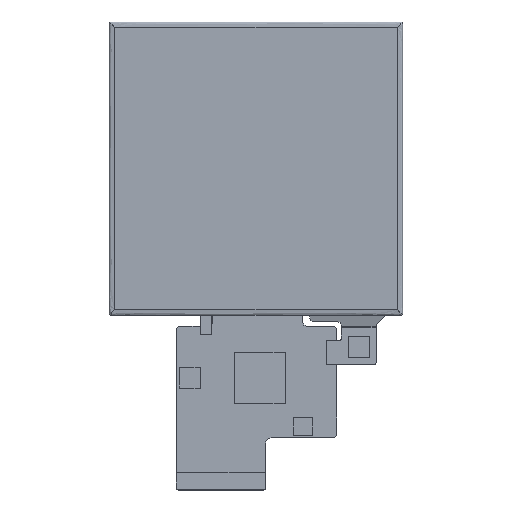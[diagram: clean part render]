
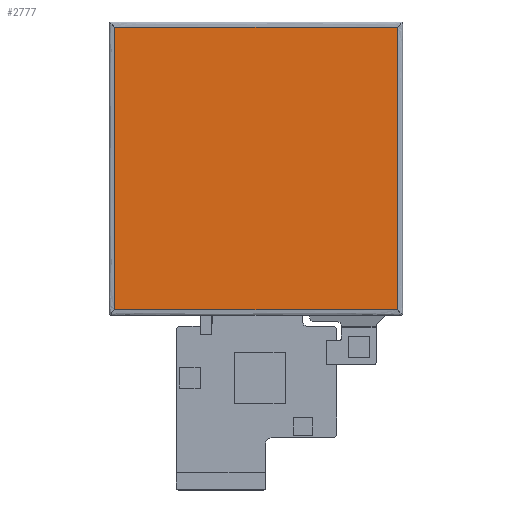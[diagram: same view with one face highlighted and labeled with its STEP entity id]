
A CAD part, top view. The second image highlights one B-rep face of the part: STEP entity #2777.
In plain terms, the highlighted planar face has unit normal (0, 0, 1).
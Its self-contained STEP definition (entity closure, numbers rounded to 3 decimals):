
#290=DIRECTION('',(-1.,0.,0.));
#291=VECTOR('',#290,81.);
#292=CARTESIAN_POINT('',(40.5,38.5,1.35));
#293=LINE('',#292,#291);
#294=DIRECTION('',(0.,1.,0.));
#295=VECTOR('',#294,81.);
#296=CARTESIAN_POINT('',(40.5,-42.5,1.35));
#297=LINE('',#296,#295);
#298=DIRECTION('',(1.,0.,0.));
#299=VECTOR('',#298,81.);
#300=CARTESIAN_POINT('',(-40.5,-42.5,1.35));
#301=LINE('',#300,#299);
#302=DIRECTION('',(0.,-1.,0.));
#303=VECTOR('',#302,81.);
#304=CARTESIAN_POINT('',(-40.5,38.5,1.35));
#305=LINE('',#304,#303);
#2295=CARTESIAN_POINT('',(40.5,38.5,1.35));
#2296=CARTESIAN_POINT('',(-40.5,38.5,1.35));
#2297=VERTEX_POINT('',#2295);
#2298=VERTEX_POINT('',#2296);
#2303=CARTESIAN_POINT('',(40.5,-42.5,1.35));
#2304=VERTEX_POINT('',#2303);
#2305=CARTESIAN_POINT('',(-40.5,-42.5,1.35));
#2306=VERTEX_POINT('',#2305);
#2764=CARTESIAN_POINT('',(0.,0.,1.35));
#2765=DIRECTION('',(0.,0.,-1.));
#2766=DIRECTION('',(-1.,0.,0.));
#2767=AXIS2_PLACEMENT_3D('',#2764,#2765,#2766);
#2768=PLANE('',#2767);
#2770=ORIENTED_EDGE('',*,*,#2769,.F.);
#2771=ORIENTED_EDGE('',*,*,#2654,.F.);
#2772=ORIENTED_EDGE('',*,*,#2755,.F.);
#2774=ORIENTED_EDGE('',*,*,#2773,.F.);
#2775=EDGE_LOOP('',(#2770,#2771,#2772,#2774));
#2776=FACE_OUTER_BOUND('',#2775,.F.);
#2654=EDGE_CURVE('',#2304,#2297,#297,.T.);
#2755=EDGE_CURVE('',#2306,#2304,#301,.T.);
#2769=EDGE_CURVE('',#2297,#2298,#293,.T.);
#2773=EDGE_CURVE('',#2298,#2306,#305,.T.);
#2777=ADVANCED_FACE('',(#2776),#2768,.F.);
